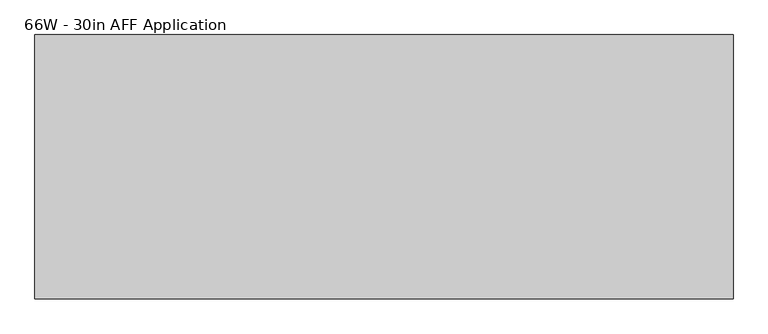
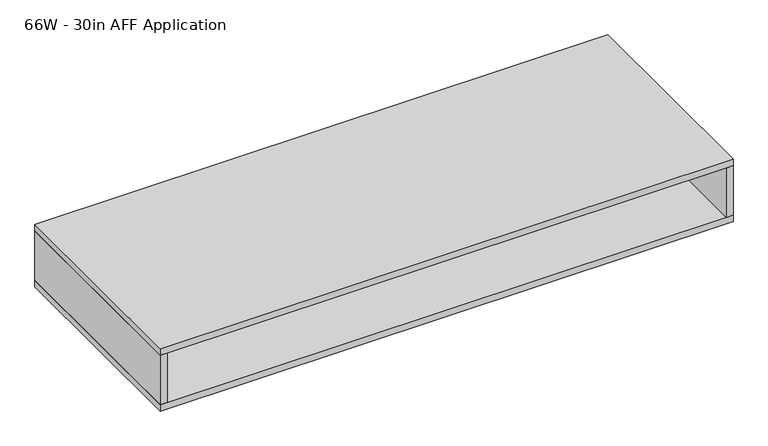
"""IFC4 building model written with IfcOpenShell, lengths in millimetres: furniture geometry, Steelcase - Duo Storage - For Use with Top Cap Mounted Storage - Slim : 66W - 30in AFF Application."""

from ifc_helpers import new_model, si_unit, frame, origin, place, context, project, spatial, polyline, outline, extrude, source, transform, mapped, element, save


def furniture_66w_30in_aff_application_ae644d3c(model_context):
    return source(origin(), model_context, "Body", "SweptSolid", [
        extrude(outline(polyline([(1656.0799516, 317.4999523), (1676.4, 317.4999523), (1676.4, -317.5000477), (1656.0799516, -317.5000477), (1656.0799516, 317.4999523)])), frame((0.0, 0.0, 771.1693517), z_axis=(0.0, 0.0, 1.0), x_axis=(1.0, 0.0, 0.0)), (0.0, 0.0, 1.0), 152.6539882),
        extrude(outline(polyline([(1676.4, 317.4999523), (1676.4, -317.5000477), (0.0, -317.5000477), (0.0, 317.4999523), (1676.4, 317.4999523)])), frame((0.0, 0.0, 923.8233399), z_axis=(0.0, 0.0, 1.0), x_axis=(1.0, 0.0, 0.0)), (0.0, 0.0, 1.0), 20.3200326),
        extrude(outline(polyline([(1656.0799516, 11.303), (1656.0799516, -11.303), (20.3199129, -11.303), (20.3199129, 11.303), (1656.0799516, 11.303)])), frame((0.0, 0.0, 771.1693517), z_axis=(0.0, 0.0, 1.0), x_axis=(1.0, 0.0, 0.0)), (0.0, 0.0, 1.0), 152.6539882),
        extrude(outline(polyline([(20.3199129, 317.4999523), (20.3199129, -317.5000477), (0.0, -317.5000477), (0.0, 317.4999523), (20.3199129, 317.4999523)])), frame((0.0, 0.0, 771.1693517), z_axis=(0.0, 0.0, 1.0), x_axis=(1.0, 0.0, 0.0)), (0.0, 0.0, 1.0), 152.6539882),
        extrude(outline(polyline([(1676.4, 317.4999523), (1676.4, -317.5000477), (0.0, -317.5000477), (0.0, 317.4999523), (1676.4, 317.4999523)])), frame((0.0, 0.0, 750.8493725), z_axis=(0.0, 0.0, 1.0), x_axis=(1.0, 0.0, 0.0)), (0.0, 0.0, 1.0), 20.3199793),
    ])


if __name__ == "__main__":
    model = new_model("IFC4")
    model_context = context("Model", 3, world=origin())
    ifc_project = project(units=[si_unit("LENGTHUNIT", "METRE", prefix="MILLI")], contexts=[model_context])
    site = spatial("IfcSite", under=ifc_project)
    building = spatial("IfcBuilding", under=site)
    placement = place(None, origin())
    furniture_66w_30in_aff_application_shape = furniture_66w_30in_aff_application_ae644d3c(model_context)
    element("IfcFurniture", 1, ObjectType="Steelcase - Duo Storage - For Use with Top Cap Mounted Storage - Slim : 66W - 30in AFF Application", at=placement, inside=building, context=model_context, shape_type="MappedRepresentation", body=[
        mapped(furniture_66w_30in_aff_application_shape, transform((0.0, 0.0, 0.0), x_axis=(1.0, 0.0, 0.0), y_axis=(0.0, 1.0, 0.0), z_axis=(0.0, 0.0, 1.0))),
    ])
    save(model, "model.ifc")
